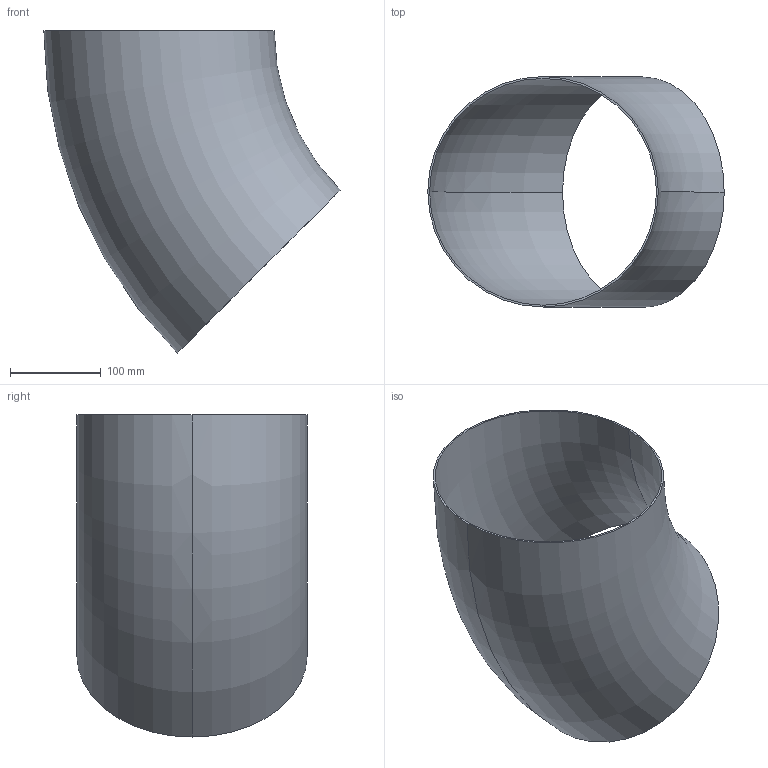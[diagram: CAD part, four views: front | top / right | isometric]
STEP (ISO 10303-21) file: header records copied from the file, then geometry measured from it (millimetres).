
FILE_DESCRIPTION (( 'STEP AP203' ), '1' );
FILE_NAME ('3D_R1650_254x2_17351900.STEP', '2024-08-03T09:20:53', ( '' ), ( '' ), 'SwSTEP 2.0', 'SolidWorks 2024', '' );
FILE_SCHEMA (( 'CONFIG_CONTROL_DESIGN' ));
Length unit declared in the file: millimetre
Products named in the file (1): 3D_R1650_254x2_17351900
Bounding box: 326.64 x 254 x 354.97 mm (x, y, z)
Volume: 466338.8 mm3; surface area: 469505.5 mm2
Topology: 1 solids, 1 shells, 6 faces, 12 edges, 8 vertices
Faces by surface type: torus 4, plane 2
Entity records: 249 total; most frequent: DIRECTION 38, CARTESIAN_POINT 27, ORIENTED_EDGE 24, AXIS2_PLACEMENT_3D 19, EDGE_CURVE 12, CIRCLE 12, VERTEX_POINT 8, EDGE_LOOP 8
